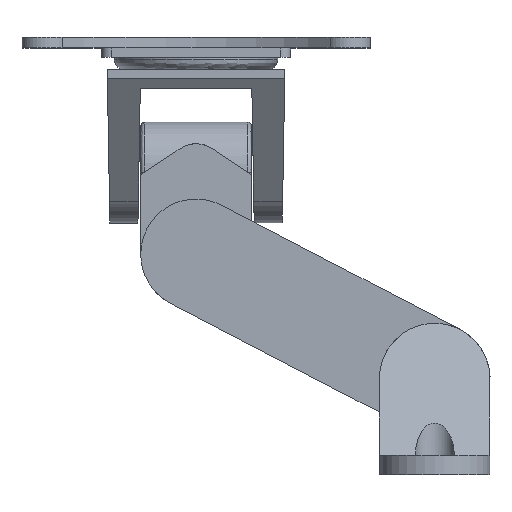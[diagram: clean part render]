
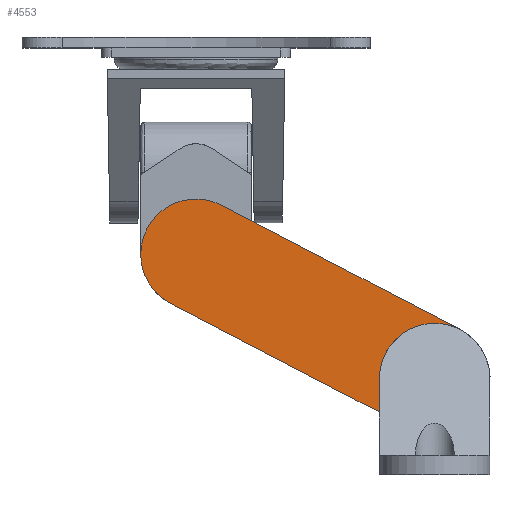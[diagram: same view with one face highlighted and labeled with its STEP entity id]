
A CAD part, front view. The second image highlights one B-rep face of the part: STEP entity #4553.
In plain terms, the highlighted planar face has unit normal (0, -1, 0) as drawn and (0, 0, -1) by its records, which use the part's own axes.
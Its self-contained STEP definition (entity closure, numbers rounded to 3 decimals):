
#71 = AXIS2_PLACEMENT_3D ( 'NONE', #1699, #1388, #2966 ) ;
#401 = LINE ( 'NONE', #1167, #4844 ) ;
#559 = ORIENTED_EDGE ( 'NONE', *, *, #803, .F. ) ;
#610 = FACE_OUTER_BOUND ( 'NONE', #4168, .T. ) ;
#684 = VERTEX_POINT ( 'NONE', #5484 ) ;
#803 = EDGE_CURVE ( 'NONE', #5352, #3865, #2325, .T. ) ;
#1167 = CARTESIAN_POINT ( 'NONE',  ( 0., -18.288, 0. ) ) ;
#1290 = CIRCLE ( 'NONE', #1484, 18.288 ) ;
#1388 = DIRECTION ( 'NONE',  ( 0., 0., 1. ) ) ;
#1484 = AXIS2_PLACEMENT_3D ( 'NONE', #5179, #2474, #5669 ) ;
#1498 = CARTESIAN_POINT ( 'NONE',  ( 0., 18.288, 0. ) ) ;
#1699 = CARTESIAN_POINT ( 'NONE',  ( 0., 0., 0. ) ) ;
#1919 = AXIS2_PLACEMENT_3D ( 'NONE', #2091, #5246, #2526 ) ;
#1921 = DIRECTION ( 'NONE',  ( 0., 0., 1. ) ) ;
#2010 = DIRECTION ( 'NONE',  ( 1., 0., 0. ) ) ;
#2072 = PLANE ( 'NONE',  #1919 ) ;
#2091 = CARTESIAN_POINT ( 'NONE',  ( -44.45, 0., 0. ) ) ;
#2325 = CIRCLE ( 'NONE', #71, 18.288 ) ;
#2390 = EDGE_CURVE ( 'NONE', #3865, #5505, #5009, .T. ) ;
#2426 = VERTEX_POINT ( 'NONE', #3341 ) ;
#2454 = VECTOR ( 'NONE', #4084, 1000. ) ;
#2474 = DIRECTION ( 'NONE',  ( 0., 0., 1. ) ) ;
#2526 = DIRECTION ( 'NONE',  ( 1., 0., 0. ) ) ;
#2575 = CIRCLE ( 'NONE', #4383, 18.288 ) ;
#2707 = ORIENTED_EDGE ( 'NONE', *, *, #5434, .F. ) ;
#2966 = DIRECTION ( 'NONE',  ( 1., 0., 0. ) ) ;
#3341 = CARTESIAN_POINT ( 'NONE',  ( -88.9, -18.288, 0. ) ) ;
#3487 = CARTESIAN_POINT ( 'NONE',  ( -88.9, 18.288, 0. ) ) ;
#3865 = VERTEX_POINT ( 'NONE', #1498 ) ;
#3936 = ORIENTED_EDGE ( 'NONE', *, *, #5455, .F. ) ;
#4084 = DIRECTION ( 'NONE',  ( -1., 0., 0. ) ) ;
#4168 = EDGE_LOOP ( 'NONE', ( #2707, #3936, #5138, #559, #5286 ) ) ;
#4216 = EDGE_CURVE ( 'NONE', #684, #5352, #2575, .T. ) ;
#4383 = AXIS2_PLACEMENT_3D ( 'NONE', #4623, #1921, #5077 ) ;
#4553 = ADVANCED_FACE ( 'NONE', ( #610 ), #2072, .F. ) ;
#4623 = CARTESIAN_POINT ( 'NONE',  ( 0., 0., 0. ) ) ;
#4818 = CARTESIAN_POINT ( 'NONE',  ( -88.9, 18.288, 0. ) ) ;
#4844 = VECTOR ( 'NONE', #2010, 1000. ) ;
#5009 = LINE ( 'NONE', #3487, #2454 ) ;
#5077 = DIRECTION ( 'NONE',  ( 1., 0., 0. ) ) ;
#5138 = ORIENTED_EDGE ( 'NONE', *, *, #2390, .F. ) ;
#5179 = CARTESIAN_POINT ( 'NONE',  ( -88.9, 0., 0. ) ) ;
#5246 = DIRECTION ( 'NONE',  ( 0., 0., 1. ) ) ;
#5286 = ORIENTED_EDGE ( 'NONE', *, *, #4216, .F. ) ;
#5352 = VERTEX_POINT ( 'NONE', #5579 ) ;
#5434 = EDGE_CURVE ( 'NONE', #2426, #684, #401, .T. ) ;
#5455 = EDGE_CURVE ( 'NONE', #5505, #2426, #1290, .T. ) ;
#5484 = CARTESIAN_POINT ( 'NONE',  ( 0., -18.288, 0. ) ) ;
#5505 = VERTEX_POINT ( 'NONE', #4818 ) ;
#5579 = CARTESIAN_POINT ( 'NONE',  ( 18.288, 0., 0. ) ) ;
#5669 = DIRECTION ( 'NONE',  ( 1., 0., 0. ) ) ;
